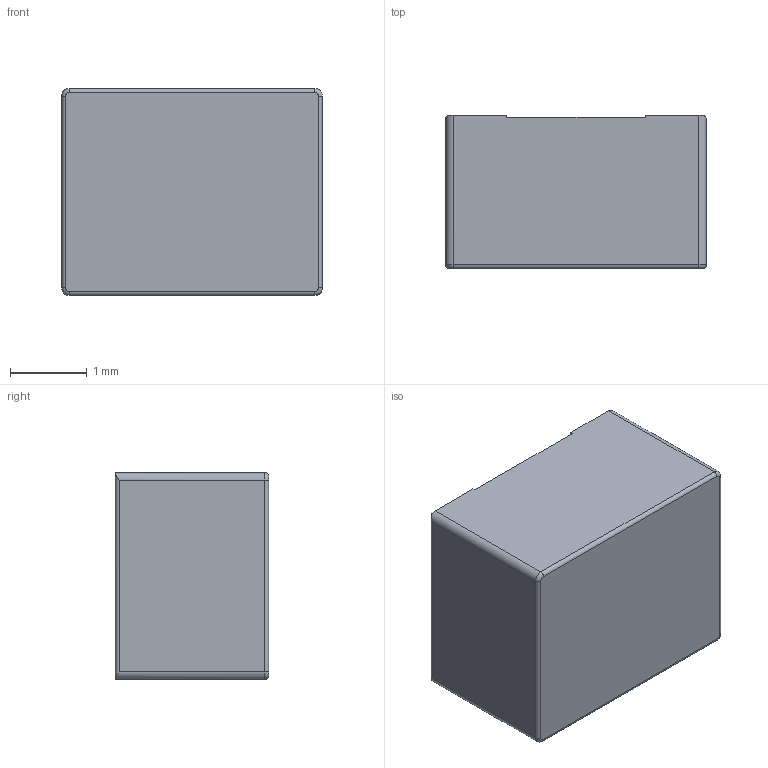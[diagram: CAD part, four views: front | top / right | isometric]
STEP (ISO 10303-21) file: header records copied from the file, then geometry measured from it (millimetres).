
FILE_DESCRIPTION (( 'STEP AP214' ), '1' );
FILE_NAME ('322520-6A.STEP', '2024-02-01T09:29:14', ( 'China' ), ( 'Microsoft' ), 'SwSTEP 2.0', 'SolidWorks 2022', '' );
FILE_SCHEMA (( 'AUTOMOTIVE_DESIGN' ));
Length unit declared in the file: millimetre
Products named in the file (1): 322520-6A
Bounding box: 3.4 x 2 x 2.7 mm (x, y, z)
Volume: 18.2 mm3; surface area: 42.1 mm2
Topology: 1 solids, 1 shells, 24 faces, 58 edges, 36 vertices
Faces by surface type: plane 10, cylinder 10, torus 4
Entity records: 982 total; most frequent: CARTESIAN_POINT 179, DIRECTION 124, ORIENTED_EDGE 116, EDGE_CURVE 58, AXIS2_PLACEMENT_3D 45, VERTEX_POINT 36, VECTOR 34, LINE 34
